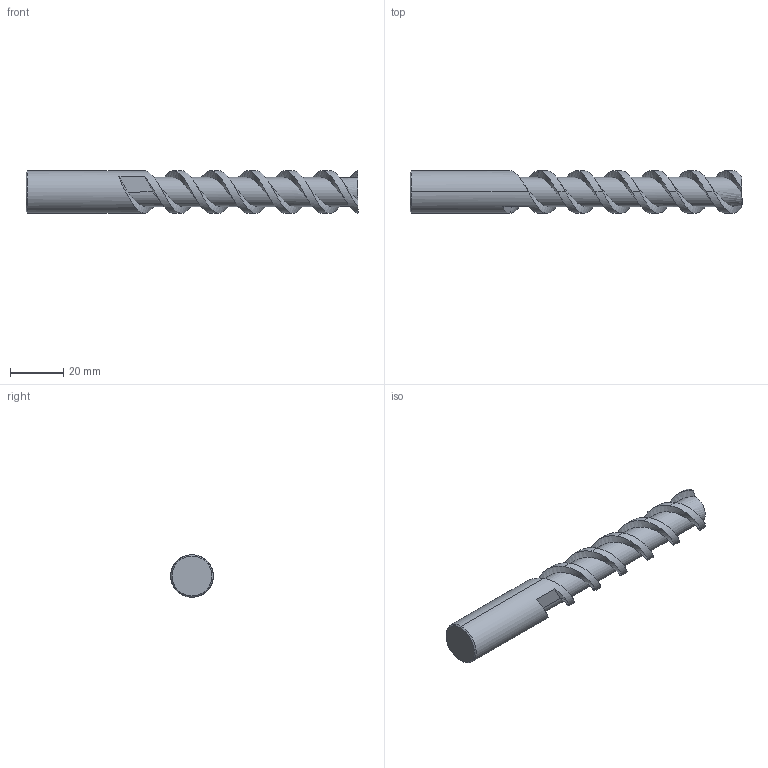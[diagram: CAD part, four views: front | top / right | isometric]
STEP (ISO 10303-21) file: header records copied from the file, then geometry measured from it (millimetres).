
FILE_DESCRIPTION (( 'STEP AP214' ), '1' );
FILE_NAME ('E2122_16_125.STEP', '2013-04-10T07:03:35', ( '' ), ( '' ), 'SwSTEP 2.0', 'SolidWorks 2013', '' );
FILE_SCHEMA (( 'AUTOMOTIVE_DESIGN' ));
Length unit declared in the file: millimetre
Products named in the file (1): E2122_16_125
Bounding box: 125 x 16 x 16 mm (x, y, z)
Volume: 18484.2 mm3; surface area: 6857.4 mm2
Topology: 1 solids, 1 shells, 28 faces, 72 edges, 46 vertices
Faces by surface type: cylinder 12, plane 8, bspline 6, cone 2
Entity records: 7321 total; most frequent: CARTESIAN_POINT 6430, ORIENTED_EDGE 144, DIRECTION 84, EDGE_CURVE 72, VERTEX_POINT 46, UNCERTAINTY_MEASURE_WITH_UNIT 31, PRESENTATION_STYLE_ASSIGNMENT 30, SURFACE_STYLE_FILL_AREA 30
